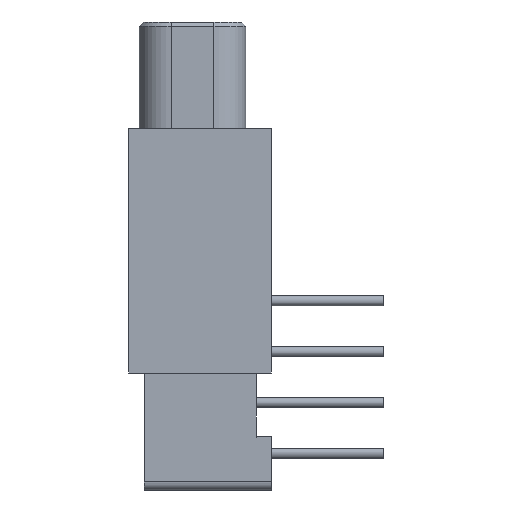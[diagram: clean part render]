
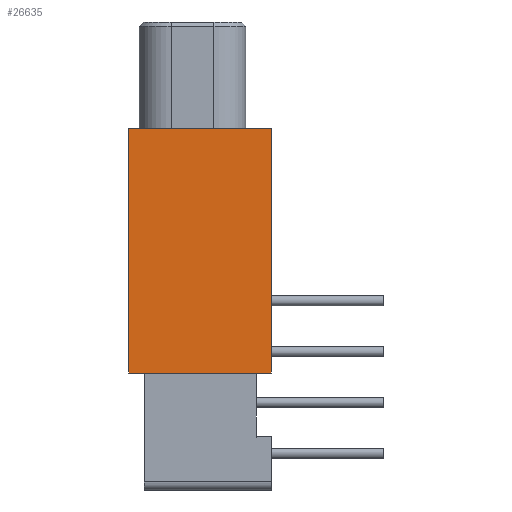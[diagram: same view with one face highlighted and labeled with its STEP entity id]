
A CAD part, left-side view. The second image highlights one B-rep face of the part: STEP entity #26635.
In plain terms, the highlighted planar face has unit normal (-1, 0, 0).
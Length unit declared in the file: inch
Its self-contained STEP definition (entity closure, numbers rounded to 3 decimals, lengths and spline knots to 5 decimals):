
#734 = CARTESIAN_POINT ( 'NONE',  ( -0.225, -0.07, 0. ) ) ;
#1138 = VERTEX_POINT ( 'NONE', #22747 ) ;
#2472 = ORIENTED_EDGE ( 'NONE', *, *, #17995, .F. ) ;
#3777 = VERTEX_POINT ( 'NONE', #27380 ) ;
#5803 = CARTESIAN_POINT ( 'NONE',  ( -0.225, -0.07, 0.345 ) ) ;
#6306 = EDGE_LOOP ( 'NONE', ( #2472, #20239, #35082, #29118 ) ) ;
#8962 = CARTESIAN_POINT ( 'NONE',  ( -0.225, -0.07, 0.345 ) ) ;
#9614 = DIRECTION ( 'NONE',  ( 0., -1., 0. ) ) ;
#10198 = PLANE ( 'NONE',  #38268 ) ;
#10532 = DIRECTION ( 'NONE',  ( 0., -1., 0. ) ) ;
#12920 = EDGE_CURVE ( 'NONE', #36870, #3777, #21148, .T. ) ;
#14804 = DIRECTION ( 'NONE',  ( 0., 0., 1. ) ) ;
#15195 = VERTEX_POINT ( 'NONE', #35487 ) ;
#16769 = CARTESIAN_POINT ( 'NONE',  ( -0.225, -0.07, 0.24 ) ) ;
#16822 = LINE ( 'NONE', #23063, #30774 ) ;
#17623 = DIRECTION ( 'NONE',  ( 0., 0., -1. ) ) ;
#17995 = EDGE_CURVE ( 'NONE', #15195, #36870, #20014, .T. ) ;
#20014 = LINE ( 'NONE', #16769, #32893 ) ;
#20239 = ORIENTED_EDGE ( 'NONE', *, *, #25538, .T. ) ;
#21148 = LINE ( 'NONE', #5803, #34558 ) ;
#22747 = CARTESIAN_POINT ( 'NONE',  ( -0.225, 0.07, 0. ) ) ;
#23063 = CARTESIAN_POINT ( 'NONE',  ( -0.225, 0.07, 0.345 ) ) ;
#23755 = CARTESIAN_POINT ( 'NONE',  ( -0.225, -0.07, 0.24 ) ) ;
#25278 = LINE ( 'NONE', #734, #33883 ) ;
#25538 = EDGE_CURVE ( 'NONE', #15195, #1138, #16822, .T. ) ;
#26635 = ADVANCED_FACE ( 'NONE', ( #29458 ), #10198, .F. ) ;
#27253 = EDGE_CURVE ( 'NONE', #1138, #3777, #25278, .T. ) ;
#27380 = CARTESIAN_POINT ( 'NONE',  ( -0.225, -0.07, 0. ) ) ;
#29118 = ORIENTED_EDGE ( 'NONE', *, *, #12920, .F. ) ;
#29458 = FACE_OUTER_BOUND ( 'NONE', #6306, .T. ) ;
#30357 = DIRECTION ( 'NONE',  ( 0., 0., -1. ) ) ;
#30774 = VECTOR ( 'NONE', #17623, 39.37008 ) ;
#32893 = VECTOR ( 'NONE', #10532, 39.37008 ) ;
#33883 = VECTOR ( 'NONE', #9614, 39.37008 ) ;
#34558 = VECTOR ( 'NONE', #30357, 39.37008 ) ;
#35082 = ORIENTED_EDGE ( 'NONE', *, *, #27253, .T. ) ;
#35487 = CARTESIAN_POINT ( 'NONE',  ( -0.225, 0.07, 0.24 ) ) ;
#36086 = DIRECTION ( 'NONE',  ( 1., 0., 0. ) ) ;
#36870 = VERTEX_POINT ( 'NONE', #23755 ) ;
#38268 = AXIS2_PLACEMENT_3D ( 'NONE', #8962, #36086, #14804 ) ;
